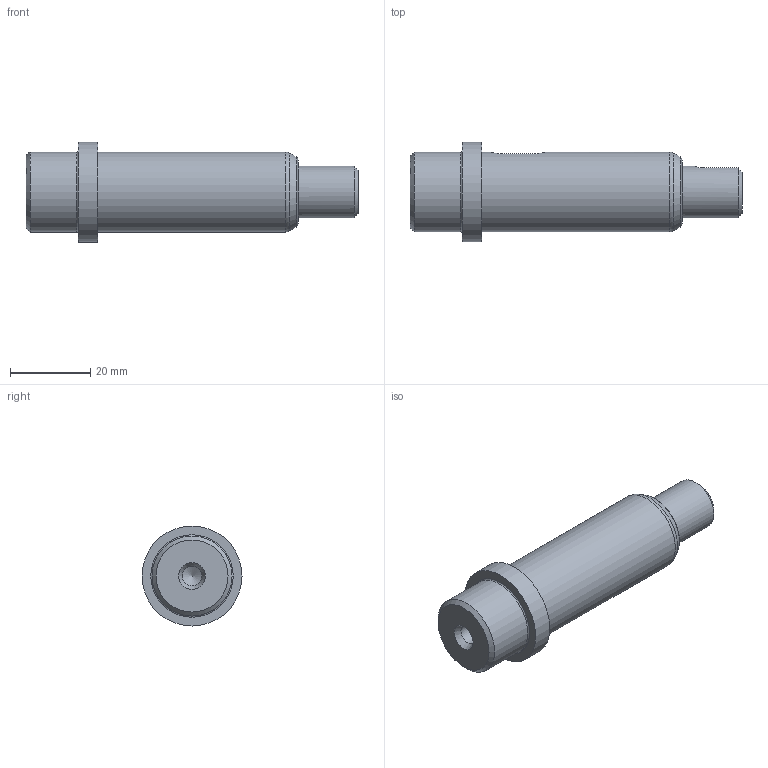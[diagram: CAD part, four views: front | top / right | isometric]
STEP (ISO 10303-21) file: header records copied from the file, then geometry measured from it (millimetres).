
FILE_DESCRIPTION(/* description */ (''),/* implementation_level */ '2;1');
FILE_NAME(/* name */ '',/* time_stamp */ '2025-09-02T10:45:23+09:00',/* author */ ('jhkim'),/* organization */ (''),/* preprocessor_version */ 'ST-DEVELOPER v20.1',/* originating_system */ 'Autodesk Inventor 2026',/* authorisation */ '');
FILE_SCHEMA (('AUTOMOTIVE_DESIGN { 1 0 10303 214 3 1 1 }'));
Length unit declared in the file: millimetre
Products named in the file (1): 슬롯 축
Bounding box: 83 x 25 x 25 mm (x, y, z)
Volume: 23276.6 mm3; surface area: 6267.2 mm2
Topology: 1 solids, 1 shells, 30 faces, 73 edges, 49 vertices
Faces by surface type: plane 11, cylinder 9, cone 7, torus 3
Full cylindrical faces by diameter (mm): 3.242 x1, 4.917 x1, 13 x1, 20 x2, 25 x1
Entity records: 972 total; most frequent: CARTESIAN_POINT 209, DIRECTION 159, ORIENTED_EDGE 142, EDGE_CURVE 71, AXIS2_PLACEMENT_3D 65, VERTEX_POINT 49, EDGE_LOOP 36, CIRCLE 34
